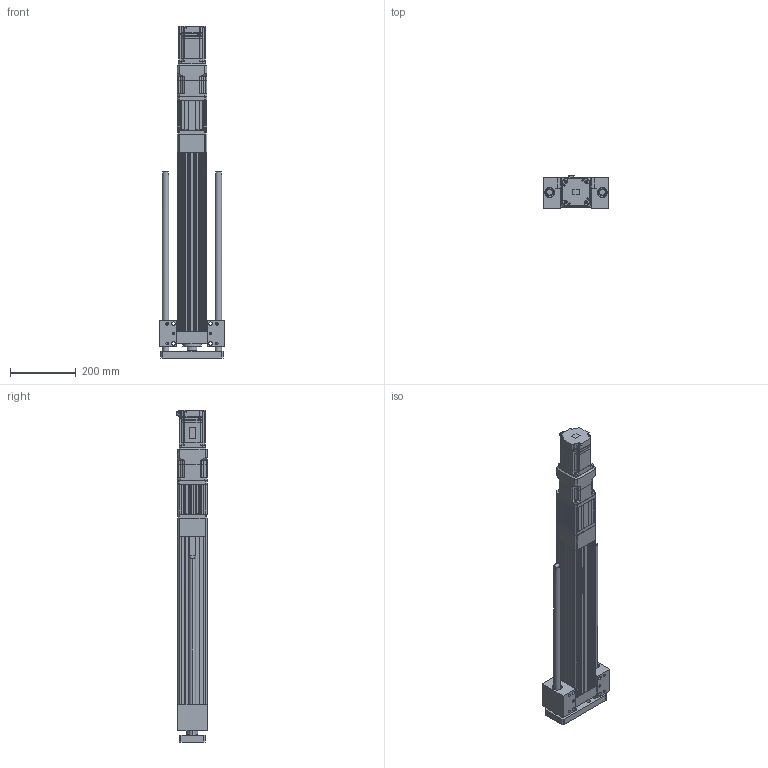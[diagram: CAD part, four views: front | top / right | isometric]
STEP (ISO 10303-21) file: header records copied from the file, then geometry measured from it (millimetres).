
FILE_DESCRIPTION (( 'STEP AP203' ), '1' );
FILE_NAME ('ANS090H-HS400-05(10)(25)-W75G05.STEP', '2019-03-18T03:31:12', ( 'user' ), ( '' ), 'SwSTEP 2.0', 'SolidWorks 2013', '' );
FILE_SCHEMA (( 'CONFIG_CONTROL_DESIGN' ));
Length unit declared in the file: millimetre
Products named in the file (5): ANS090H HS400 VER2; ANS090 ROD ST400-H; SGMJV_08A_A21; AB090-005-S1-P2[YASKAWA SGMJV08A]; ANS090H-HS400-05(10)(25)-W75G05
Assembly tree (4 placements, depth 2):
  ANS090H-HS400-05(10)(25)-W75G05
    ANS090H HS400 VER2
    ANS090 ROD ST400-H
    SGMJV_08A_A21
    AB090-005-S1-P2[YASKAWA SGMJV08A]
Bounding box: 200 x 95.8 x 1008.1 mm (x, y, z)
Volume: 5241117.5 mm3; surface area: 947400.3 mm2
Topology: 3 solids, 10 shells, 1749 faces, 4692 edges, 3042 vertices
Faces by surface type: plane 1030, cylinder 559, cone 148, bspline 12
Entity records: 55250 total; most frequent: CARTESIAN_POINT 10492, ORIENTED_EDGE 9248, DIRECTION 9165, EDGE_CURVE 4668, LINE 3271, VECTOR 3271, VERTEX_POINT 3042, AXIS2_PLACEMENT_3D 2947
